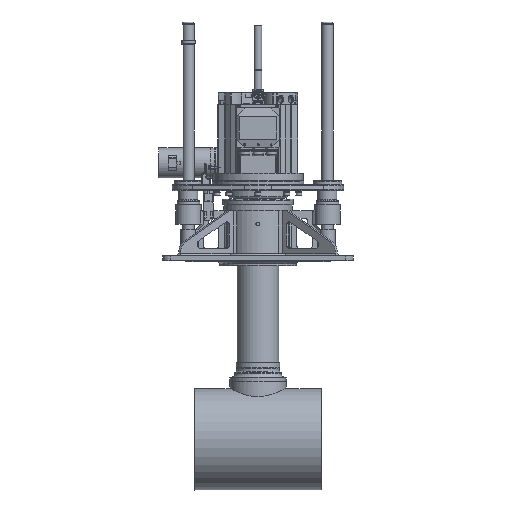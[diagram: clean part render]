
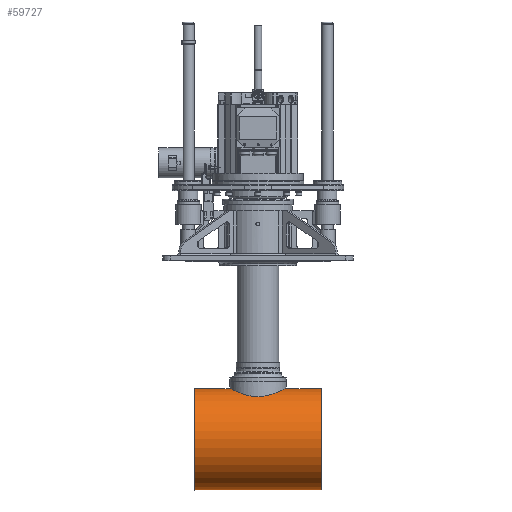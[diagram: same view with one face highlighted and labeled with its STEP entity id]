
A CAD part, front view. The second image highlights one B-rep face of the part: STEP entity #59727.
In plain terms, the highlighted cylindrical face has radius 133 mm (diameter 266 mm), a full revolution.
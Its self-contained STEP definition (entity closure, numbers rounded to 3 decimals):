
#649=B_SPLINE_CURVE_WITH_KNOTS('',3,(#137397,#137398,#137399,#137400,#137401,
#137402,#137403,#137404,#137405,#137406,#137407,#137408,#137409,#137410,
#137411,#137412,#137413,#137414,#137415,#137416,#137417,#137418,#137419,
#137420,#137421,#137422,#137423,#137424,#137425,#137426,#137427,#137428,
#137429,#137430),.UNSPECIFIED.,.F.,.F.,(4,2,2,2,2,2,2,2,2,2,2,2,2,2,2,2,
4),(0.,0.836,1.671,2.507,3.343,
4.178,5.014,5.849,6.684,7.52,
8.355,9.191,10.026,10.862,11.697,
12.533,13.369),.UNSPECIFIED.);
#650=B_SPLINE_CURVE_WITH_KNOTS('',3,(#137431,#137432,#137433,#137434,#137435,
#137436,#137437,#137438,#137439,#137440,#137441,#137442,#137443,#137444,
#137445,#137446,#137447,#137448,#137449,#137450,#137451,#137452,#137453,
#137454,#137455,#137456,#137457,#137458,#137459,#137460,#137461,#137462,
#137463,#137464),.UNSPECIFIED.,.F.,.F.,(4,2,2,2,2,2,2,2,2,2,2,2,2,2,2,2,
4),(13.369,14.205,15.04,15.876,
16.712,17.547,18.383,19.218,20.053,
20.889,21.724,22.56,23.395,24.231,
25.066,25.902,26.738),.UNSPECIFIED.);
#4609=LINE('',#137393,#8745);
#8745=VECTOR('',#78926,133.);
#10597=CYLINDRICAL_SURFACE('',#65190,133.);
#11533=FACE_BOUND('',#17700,.T.);
#14019=FACE_OUTER_BOUND('',#17699,.T.);
#17699=EDGE_LOOP('',(#47622,#47623,#47624,#47625));
#17700=EDGE_LOOP('',(#47626,#47627));
#20963=CIRCLE('',#65191,133.);
#20964=CIRCLE('',#65192,133.);
#25792=VERTEX_POINT('',#137390);
#25793=VERTEX_POINT('',#137392);
#25794=VERTEX_POINT('',#137395);
#25795=VERTEX_POINT('',#137396);
#33356=EDGE_CURVE('',#25792,#25792,#20963,.T.);
#33357=EDGE_CURVE('',#25792,#25793,#4609,.T.);
#33358=EDGE_CURVE('',#25793,#25793,#20964,.T.);
#33359=EDGE_CURVE('',#25794,#25795,#649,.T.);
#33360=EDGE_CURVE('',#25795,#25794,#650,.T.);
#47622=ORIENTED_EDGE('',*,*,#33356,.T.);
#47623=ORIENTED_EDGE('',*,*,#33357,.T.);
#47624=ORIENTED_EDGE('',*,*,#33358,.T.);
#47625=ORIENTED_EDGE('',*,*,#33357,.F.);
#47626=ORIENTED_EDGE('',*,*,#33359,.T.);
#47627=ORIENTED_EDGE('',*,*,#33360,.T.);
#59727=ADVANCED_FACE('',(#14019,#11533),#10597,.T.);
#65190=AXIS2_PLACEMENT_3D('',#137389,#78922,#78923);
#65191=AXIS2_PLACEMENT_3D('',#137391,#78924,#78925);
#65192=AXIS2_PLACEMENT_3D('',#137394,#78927,#78928);
#78922=DIRECTION('center_axis',(1.,0.,0.));
#78923=DIRECTION('ref_axis',(0.,0.,
1.));
#78924=DIRECTION('center_axis',(-1.,0.,0.));
#78925=DIRECTION('ref_axis',(0.,0.,
1.));
#78926=DIRECTION('',(-1.,0.,0.));
#78927=DIRECTION('center_axis',(1.,0.,0.));
#78928=DIRECTION('ref_axis',(0.,0.,
1.));
#137389=CARTESIAN_POINT('Origin',(0.,0.,
-466.9));
#137390=CARTESIAN_POINT('',(166.3,0.,-599.9));
#137391=CARTESIAN_POINT('Origin',(166.3,0.,
-466.9));
#137392=CARTESIAN_POINT('',(-166.3,0.,-599.9));
#137393=CARTESIAN_POINT('',(0.,0.,-599.9));
#137394=CARTESIAN_POINT('Origin',(-166.3,0.,
-466.9));
#137395=CARTESIAN_POINT('',(0.,-44.,-341.389));
#137396=CARTESIAN_POINT('',(0.,44.,-341.389));
#137397=CARTESIAN_POINT('Ctrl Pts',(0.,-44.,
-341.389));
#137398=CARTESIAN_POINT('Ctrl Pts',(-2.786,-44.,
-341.389));
#137399=CARTESIAN_POINT('Ctrl Pts',(-5.659,-43.731,
-341.294));
#137400=CARTESIAN_POINT('Ctrl Pts',(-11.361,-42.607,
-340.908));
#137401=CARTESIAN_POINT('Ctrl Pts',(-14.19,-41.752,
-340.618));
#137402=CARTESIAN_POINT('Ctrl Pts',(-19.603,-39.501,
-339.896));
#137403=CARTESIAN_POINT('Ctrl Pts',(-22.192,-38.103,
-339.464));
#137404=CARTESIAN_POINT('Ctrl Pts',(-26.976,-34.88,
-338.544));
#137405=CARTESIAN_POINT('Ctrl Pts',(-29.171,-33.055,
-338.058));
#137406=CARTESIAN_POINT('Ctrl Pts',(-33.054,-29.172,
-337.123));
#137407=CARTESIAN_POINT('Ctrl Pts',(-34.879,-26.978,
-336.642));
#137408=CARTESIAN_POINT('Ctrl Pts',(-38.102,-22.194,
-335.742));
#137409=CARTESIAN_POINT('Ctrl Pts',(-39.501,-19.603,
-335.324));
#137410=CARTESIAN_POINT('Ctrl Pts',(-41.753,-14.189,
-334.631));
#137411=CARTESIAN_POINT('Ctrl Pts',(-42.608,-11.36,
-334.355));
#137412=CARTESIAN_POINT('Ctrl Pts',(-43.731,-5.658,
-333.99));
#137413=CARTESIAN_POINT('Ctrl Pts',(-44.,-2.785,
-333.9));
#137414=CARTESIAN_POINT('Ctrl Pts',(-44.,2.785,
-333.9));
#137415=CARTESIAN_POINT('Ctrl Pts',(-43.731,5.658,
-333.99));
#137416=CARTESIAN_POINT('Ctrl Pts',(-42.608,11.36,
-334.355));
#137417=CARTESIAN_POINT('Ctrl Pts',(-41.753,14.189,
-334.631));
#137418=CARTESIAN_POINT('Ctrl Pts',(-39.501,19.603,
-335.324));
#137419=CARTESIAN_POINT('Ctrl Pts',(-38.102,22.194,
-335.742));
#137420=CARTESIAN_POINT('Ctrl Pts',(-34.879,26.978,-336.642));
#137421=CARTESIAN_POINT('Ctrl Pts',(-33.054,29.172,
-337.123));
#137422=CARTESIAN_POINT('Ctrl Pts',(-29.171,33.055,
-338.058));
#137423=CARTESIAN_POINT('Ctrl Pts',(-26.976,34.88,
-338.544));
#137424=CARTESIAN_POINT('Ctrl Pts',(-22.192,38.103,-339.464));
#137425=CARTESIAN_POINT('Ctrl Pts',(-19.603,39.501,
-339.896));
#137426=CARTESIAN_POINT('Ctrl Pts',(-14.19,41.752,
-340.618));
#137427=CARTESIAN_POINT('Ctrl Pts',(-11.361,42.607,
-340.908));
#137428=CARTESIAN_POINT('Ctrl Pts',(-5.659,43.731,
-341.294));
#137429=CARTESIAN_POINT('Ctrl Pts',(-2.786,44.,
-341.389));
#137430=CARTESIAN_POINT('Ctrl Pts',(0.,44.,
-341.389));
#137431=CARTESIAN_POINT('Ctrl Pts',(0.,44.,
-341.389));
#137432=CARTESIAN_POINT('Ctrl Pts',(2.786,44.,-341.389));
#137433=CARTESIAN_POINT('Ctrl Pts',(5.659,43.731,-341.294));
#137434=CARTESIAN_POINT('Ctrl Pts',(11.361,42.607,-340.908));
#137435=CARTESIAN_POINT('Ctrl Pts',(14.19,41.752,-340.618));
#137436=CARTESIAN_POINT('Ctrl Pts',(19.603,39.501,-339.896));
#137437=CARTESIAN_POINT('Ctrl Pts',(22.192,38.103,-339.464));
#137438=CARTESIAN_POINT('Ctrl Pts',(26.976,34.88,-338.544));
#137439=CARTESIAN_POINT('Ctrl Pts',(29.171,33.055,-338.058));
#137440=CARTESIAN_POINT('Ctrl Pts',(33.054,29.172,-337.123));
#137441=CARTESIAN_POINT('Ctrl Pts',(34.879,26.978,-336.642));
#137442=CARTESIAN_POINT('Ctrl Pts',(38.102,22.194,-335.742));
#137443=CARTESIAN_POINT('Ctrl Pts',(39.501,19.603,-335.324));
#137444=CARTESIAN_POINT('Ctrl Pts',(41.753,14.189,-334.631));
#137445=CARTESIAN_POINT('Ctrl Pts',(42.608,11.36,-334.355));
#137446=CARTESIAN_POINT('Ctrl Pts',(43.731,5.658,-333.99));
#137447=CARTESIAN_POINT('Ctrl Pts',(44.,2.785,-333.9));
#137448=CARTESIAN_POINT('Ctrl Pts',(44.,-2.785,-333.9));
#137449=CARTESIAN_POINT('Ctrl Pts',(43.731,-5.658,
-333.99));
#137450=CARTESIAN_POINT('Ctrl Pts',(42.608,-11.36,-334.355));
#137451=CARTESIAN_POINT('Ctrl Pts',(41.753,-14.189,
-334.631));
#137452=CARTESIAN_POINT('Ctrl Pts',(39.501,-19.603,
-335.324));
#137453=CARTESIAN_POINT('Ctrl Pts',(38.102,-22.194,
-335.742));
#137454=CARTESIAN_POINT('Ctrl Pts',(34.879,-26.978,
-336.642));
#137455=CARTESIAN_POINT('Ctrl Pts',(33.054,-29.172,
-337.123));
#137456=CARTESIAN_POINT('Ctrl Pts',(29.171,-33.055,-338.058));
#137457=CARTESIAN_POINT('Ctrl Pts',(26.976,-34.88,-338.544));
#137458=CARTESIAN_POINT('Ctrl Pts',(22.192,-38.103,
-339.464));
#137459=CARTESIAN_POINT('Ctrl Pts',(19.603,-39.501,
-339.896));
#137460=CARTESIAN_POINT('Ctrl Pts',(14.19,-41.752,
-340.618));
#137461=CARTESIAN_POINT('Ctrl Pts',(11.361,-42.607,
-340.908));
#137462=CARTESIAN_POINT('Ctrl Pts',(5.659,-43.731,
-341.294));
#137463=CARTESIAN_POINT('Ctrl Pts',(2.786,-44.,
-341.389));
#137464=CARTESIAN_POINT('Ctrl Pts',(0.,-44.,
-341.389));
